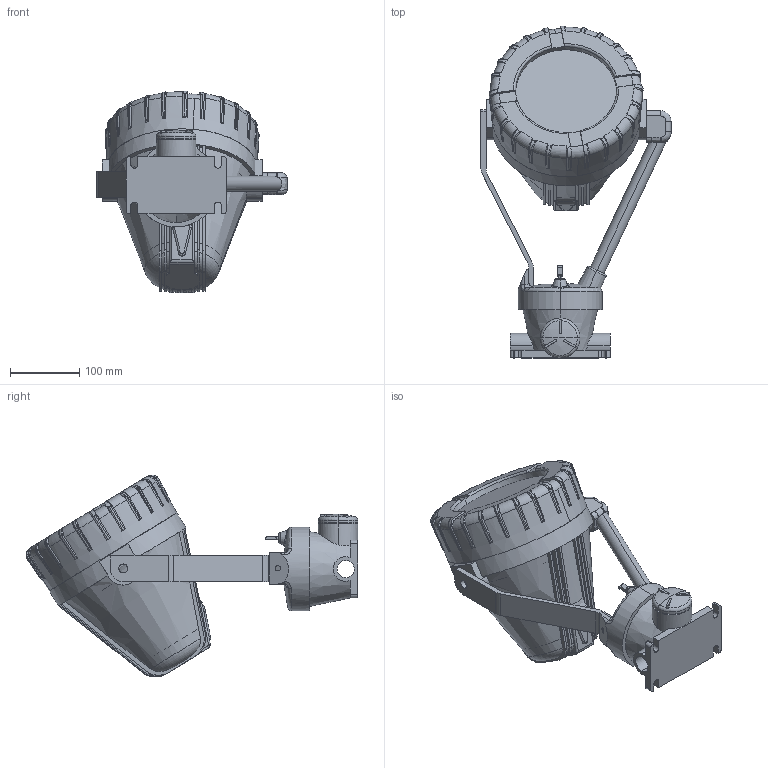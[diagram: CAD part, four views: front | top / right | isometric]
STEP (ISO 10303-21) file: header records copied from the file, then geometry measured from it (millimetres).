
FILE_DESCRIPTION (( 'STEP AP214' ), '1' );
FILE_NAME ('EPL-SM30-LED.STEP', '2010-09-18T02:52:51', ( 'Owner' ), ( 'HOME' ), 'SwSTEP 2.0', 'SolidWorks 2008', '' );
FILE_SCHEMA (( 'AUTOMOTIVE_DESIGN' ));
Length unit declared in the file: inch
Products named in the file (8): EPL-SM30-LED; Support; Base; Post; Lamp Body; Bulb; Lens Cover; lens
Assembly tree (7 placements, depth 2):
  EPL-SM30-LED
    Lamp Body
    Bulb
    Support
    Base
    Post
    Lens Cover
    lens
Bounding box: 274.7 x 479.48 x 291.79 mm (x, y, z)
Volume: 4569451 mm3; surface area: 605379 mm2
Topology: 7 solids, 8 shells, 784 faces, 2144 edges, 1300 vertices
Faces by surface type: bspline 249, plane 229, cylinder 212, torus 64, cone 26, sphere 4
Entity records: 35080 total; most frequent: CARTESIAN_POINT 17750, ORIENTED_EDGE 4112, DIRECTION 2940, EDGE_CURVE 2056, VERTEX_POINT 1296, AXIS2_PLACEMENT_3D 1160, EDGE_LOOP 806, FACE_OUTER_BOUND 784
